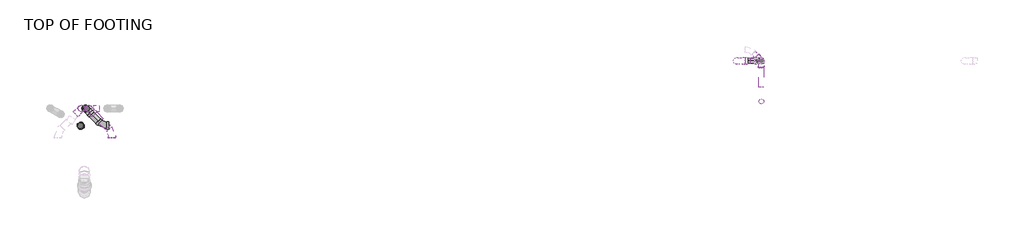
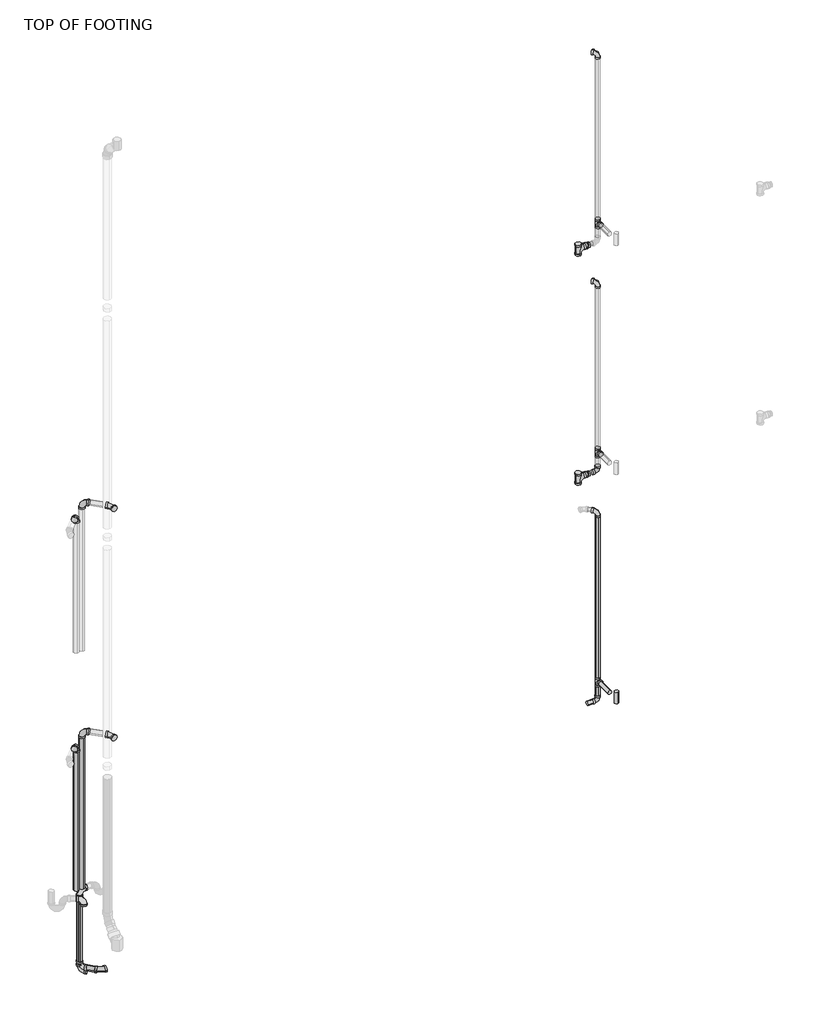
# One storey, part 5 of 8: 27 pipe segments, 25 pipe fittings.
"""IFC4 building model written with IfcOpenShell, lengths in millimetres."""

from ifc_helpers import new_model, si_unit, point, frame, frame_2d, origin, place, context, project, spatial, circle_curve, trimmed, segment, composite_curve, outline, extrude, transform, mapped, element, save
from ifc_brep_helpers import plane_surface, cylinder_surface, advanced_brep
from components import bend_pvc_sch_40_dwv_standard_738aab8b, bend_pvc_sch_40_dwv_standard_9377f51f, bend_pvc_sch_40_dwv_standard_e287c2f6, bend_pvc_sch_40_dwv_standard_f2f5988a, bend_pvc_sch_40_dwv_standard_a9546cf7, bend_pvc_sch_40_dwv_standard_994c9b13, bend_pvc_sch_40_dwv_standard_8819fd82, bend_pvc_sch_40_dwv_standard_1eaeee76, bend_pvc_sch_40_dwv_standard_49f8c181, reducer_pvc_sch_40_dwv_standard_f288b410, standard_73d07651, tee_sanitary_pvc_sch_40_dwv_standard_ad422280, tee_sanitary_pvc_sch_40_dwv_standard_7b7ecc20

model = new_model("IFC4")

# Units and contexts
model_context = context("Model", 3, world=origin())
ifc_project = project(units=[si_unit("LENGTHUNIT", "METRE", prefix="MILLI")], contexts=[model_context])

# Site, building, storey
site = spatial("IfcSite", under=ifc_project)
building = spatial("IfcBuilding", under=site)
storey = spatial("IfcBuildingStorey", under=building, Name="TOP OF FOOTING", Elevation=-762.0)

# Pipe fittings
placement = place(None, origin())
bend_pvc_sch_40_dwv_standard_shape = bend_pvc_sch_40_dwv_standard_738aab8b(model_context)
element("IfcPipeFitting", 1, ObjectType="Bend - PVC - Sch 40 - DWV : Standard", at=placement, inside=storey, context=model_context, shape_type="MappedRepresentation", body=[
    mapped(bend_pvc_sch_40_dwv_standard_shape, transform((8467.5209875, 8911.509417, 337.3617935), x_axis=(0.0, 0.0, -1.0), y_axis=(-1.0, 0.0, 0.0), z_axis=(0.0, 1.0, 0.0))),
])
element("IfcPipeFitting", 2, ObjectType="Bend - PVC - Sch 40 - DWV : Standard", at=placement, inside=storey, context=model_context, shape_type="MappedRepresentation", body=[
    mapped(bend_pvc_sch_40_dwv_standard_shape, transform((8467.5209875, 8911.4608349, 3185.0113334), x_axis=(1.0, 0.0, 0.0), y_axis=(0.0, 0.0, 1.0), z_axis=(0.0, -1.0, 0.0))),
])
bend_pvc_sch_40_dwv_standard_2_shape = bend_pvc_sch_40_dwv_standard_9377f51f(model_context)
element("IfcPipeFitting", 3, ObjectType="Bend - PVC - Sch 40 - DWV : Standard", at=placement, inside=storey, context=model_context, shape_type="MappedRepresentation", body=[
    mapped(bend_pvc_sch_40_dwv_standard_2_shape, transform((8467.5337024, 8911.5115557, 2682.6265087), x_axis=(0.0, 0.0, 1.0), y_axis=(-0.7070876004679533, 0.7071259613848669, 0.0), z_axis=(-0.7071259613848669, -0.7070876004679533, 0.0))),
])
element("IfcPipeFitting", 4, ObjectType="Bend - PVC - Sch 40 - DWV : Standard", at=placement, inside=storey, context=model_context, shape_type="MappedRepresentation", body=[
    mapped(bend_pvc_sch_40_dwv_standard_2_shape, transform((8467.5337024, 8911.5115557, 5527.4265087), x_axis=(0.0, 0.0, 1.0), y_axis=(-0.7070876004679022, 0.7071259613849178, 0.0), z_axis=(-0.7071259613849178, -0.7070876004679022, 0.0))),
])
element("IfcPipeFitting", 5, ObjectType="Bend - PVC - Sch 40 - DWV : Standard", at=placement, inside=storey, context=model_context, shape_type="MappedRepresentation", body=[
    mapped(bend_pvc_sch_40_dwv_standard_2_shape, transform((8467.5302501, 8911.5108591, 8371.9619664), x_axis=(0.0, 0.0, 1.0), y_axis=(-0.7070876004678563, 0.7071259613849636, 0.0), z_axis=(-0.7071259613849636, -0.7070876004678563, 0.0))),
])
bend_pvc_sch_40_dwv_standard_3_shape = bend_pvc_sch_40_dwv_standard_e287c2f6(model_context)
element("IfcPipeFitting", 6, ObjectType="Bend - PVC - Sch 40 - DWV : Standard", at=placement, inside=storey, context=model_context, shape_type="MappedRepresentation", body=[
    mapped(bend_pvc_sch_40_dwv_standard_3_shape, transform((2122.8597258, 8465.2710421, 477.0617935), x_axis=(-0.9999457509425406, 0.0, -0.010416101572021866), y_axis=(0.010416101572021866, 0.0, -0.9999457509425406), z_axis=(0.0, -1.0, 0.0))),
])
element("IfcPipeFitting", 7, ObjectType="Bend - PVC - Sch 40 - DWV : Standard", at=placement, inside=storey, context=model_context, shape_type="MappedRepresentation", body=[
    mapped(bend_pvc_sch_40_dwv_standard_3_shape, transform((2122.8597258, 8465.2710421, 477.0617935), x_axis=(-0.9999457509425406, 0.0, -0.010416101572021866), y_axis=(0.010416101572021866, 0.0, -0.9999457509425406), z_axis=(0.0, -1.0, 0.0))),
])
bend_pvc_sch_40_dwv_standard_4_shape = bend_pvc_sch_40_dwv_standard_f2f5988a(model_context)
element("IfcPipeFitting", 8, ObjectType="Bend - PVC - Sch 40 - DWV : Standard", at=placement, inside=storey, context=model_context, shape_type="MappedRepresentation", body=[
    mapped(bend_pvc_sch_40_dwv_standard_4_shape, transform((2372.3084875, 8244.3974343, 5283.195709), x_axis=(0.0, 0.9999999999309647, -1.1750347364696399e-05), y_axis=(-0.9999999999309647, 1.3807066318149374e-10, 1.175034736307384e-05), z_axis=(1.1750347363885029e-05, 1.175034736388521e-05, 0.9999999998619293))),
])
element("IfcPipeFitting", 9, ObjectType="Bend - PVC - Sch 40 - DWV : Standard", at=placement, inside=storey, context=model_context, shape_type="MappedRepresentation", body=[
    mapped(bend_pvc_sch_40_dwv_standard_4_shape, transform((2372.3084875, 8244.3974343, 2438.395709), x_axis=(0.0, 0.9999999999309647, -1.1750347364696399e-05), y_axis=(-0.9999999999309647, 1.3807066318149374e-10, 1.175034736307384e-05), z_axis=(1.1750347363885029e-05, 1.175034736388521e-05, 0.9999999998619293))),
])
bend_pvc_sch_40_dwv_standard_5_shape = bend_pvc_sch_40_dwv_standard_a9546cf7(model_context)
element("IfcPipeFitting", 10, ObjectType="Bend - PVC - Sch 40 - DWV : Standard", at=placement, inside=storey, context=model_context, shape_type="MappedRepresentation", body=[
    mapped(bend_pvc_sch_40_dwv_standard_5_shape, transform((2123.0879558, 8465.3555145, -484.35067), x_axis=(-8.47396251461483e-06, 4.618834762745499e-06, -0.9999999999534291), y_axis=(-0.7070876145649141, 0.7071259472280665, 9.257931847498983e-06), z_axis=(0.7071259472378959, 0.7070876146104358, -2.726237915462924e-06))),
])
element("IfcPipeFitting", 11, ObjectType="Bend - PVC - Sch 40 - DWV : Standard", at=placement, inside=storey, context=model_context, shape_type="MappedRepresentation", body=[
    mapped(bend_pvc_sch_40_dwv_standard_5_shape, transform((2122.8631892, 8465.2747973, -522.7638368), x_axis=(-8.47396251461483e-06, 4.618834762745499e-06, -0.9999999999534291), y_axis=(-0.7070876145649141, 0.7071259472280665, 9.257931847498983e-06), z_axis=(0.7071259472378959, 0.7070876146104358, -2.726237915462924e-06))),
])
bend_pvc_sch_40_dwv_standard_6_shape = bend_pvc_sch_40_dwv_standard_994c9b13(model_context)
element("IfcPipeFitting", 12, ObjectType="Bend - PVC - Sch 40 - DWV : Standard", at=placement, inside=storey, context=model_context, shape_type="MappedRepresentation", body=[
    mapped(bend_pvc_sch_40_dwv_standard_6_shape, transform((2079.7777611, 8301.1846727, 477.8709348), x_axis=(0.8674784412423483, -0.497474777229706, 0.0), y_axis=(0.0, 0.0, 1.0), z_axis=(-0.497474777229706, -0.8674784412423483, 0.0))),
])
bend_pvc_sch_40_dwv_standard_7_shape = bend_pvc_sch_40_dwv_standard_8819fd82(model_context)
element("IfcPipeFitting", 13, ObjectType="Bend - PVC - Sch 40 - DWV : Standard", at=placement, inside=storey, context=model_context, shape_type="MappedRepresentation", body=[
    mapped(bend_pvc_sch_40_dwv_standard_7_shape, transform((2282.4661288, 8305.973803, -486.0115021), x_axis=(0.7071130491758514, -0.7070620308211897, -0.007377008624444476), y_axis=(0.7070235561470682, 0.7071515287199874, -0.0073760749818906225), z_axis=(0.010432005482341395, 0.0, 0.9999455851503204))),
])
bend_pvc_sch_40_dwv_standard_8_shape = bend_pvc_sch_40_dwv_standard_1eaeee76(model_context)
element("IfcPipeFitting", 14, ObjectType="Bend - PVC - Sch 40 - DWV : Standard", at=placement, inside=storey, context=model_context, shape_type="MappedRepresentation", body=[
    mapped(bend_pvc_sch_40_dwv_standard_8_shape, transform((2151.4348028, 8465.2711191, 5283.195709), x_axis=(0.0, 0.0, 1.0), y_axis=(0.7071067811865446, -0.7071067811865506, 0.0), z_axis=(0.7071067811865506, 0.7071067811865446, 0.0))),
])
element("IfcPipeFitting", 15, ObjectType="Bend - PVC - Sch 40 - DWV : Standard", at=placement, inside=storey, context=model_context, shape_type="MappedRepresentation", body=[
    mapped(bend_pvc_sch_40_dwv_standard_8_shape, transform((2151.4348028, 8465.2711191, 2438.395709), x_axis=(0.0, 0.0, 1.0), y_axis=(0.7071067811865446, -0.7071067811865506, 0.0), z_axis=(0.7071067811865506, 0.7071067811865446, 0.0))),
])
bend_pvc_sch_40_dwv_standard_9_shape = bend_pvc_sch_40_dwv_standard_49f8c181(model_context)
element("IfcPipeFitting", 16, ObjectType="Bend - PVC - Sch 40 - DWV : Standard", at=placement, inside=storey, context=model_context, shape_type="MappedRepresentation", body=[
    mapped(bend_pvc_sch_40_dwv_standard_9_shape, transform((2085.2449931, 8465.2082981, 5130.7947608), x_axis=(0.0, 0.0, 1.0), y_axis=(0.7071067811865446, 0.7071067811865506, 0.0), z_axis=(-0.7071067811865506, 0.7071067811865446, 0.0))),
])
element("IfcPipeFitting", 17, ObjectType="Bend - PVC - Sch 40 - DWV : Standard", at=placement, inside=storey, context=model_context, shape_type="MappedRepresentation", body=[
    mapped(bend_pvc_sch_40_dwv_standard_9_shape, transform((2085.2449931, 8465.2082981, 2285.9947608), x_axis=(0.0, 0.0, 1.0), y_axis=(0.7071067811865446, 0.7071067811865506, 0.0), z_axis=(-0.7071067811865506, 0.7071067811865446, 0.0))),
])
reducer_pvc_sch_40_dwv_standard_shape = reducer_pvc_sch_40_dwv_standard_f288b410(model_context)
element("IfcPipeFitting", 18, ObjectType="Reducer - PVC - Sch 40 - DWV : Standard", at=placement, inside=storey, context=model_context, shape_type="MappedRepresentation", body=[
    mapped(reducer_pvc_sch_40_dwv_standard_shape, transform((8314.9175243, 8911.4608349, 3185.0113334), x_axis=(1.0, 0.0, 0.0), y_axis=(0.0, 1.0, 0.0), z_axis=(0.0, 0.0, 1.0))),
])
element("IfcPipeFitting", 19, ObjectType="Reducer - PVC - Sch 40 - DWV : Standard", at=placement, inside=storey, context=model_context, shape_type="MappedRepresentation", body=[
    mapped(reducer_pvc_sch_40_dwv_standard_shape, transform((8314.9175243, 8911.4608349, 6026.9617935), x_axis=(1.0, 0.0, 0.0), y_axis=(0.0, 1.0, 0.0), z_axis=(0.0, 0.0, 1.0))),
])
standard_shape = standard_73d07651(model_context)
element("IfcPipeFitting", 20, ObjectType="GES P TRAP PVC Sch 40 - DWV : Standard", at=placement, inside=storey, context=model_context, shape_type="MappedRepresentation", body=[
    mapped(standard_shape, transform((2442.6720106, 8465.2710421, 477.8721683), x_axis=(0.0, 0.0, -1.0), y_axis=(-1.0, 0.0, 0.0), z_axis=(0.0, 1.0, 0.0))),
])
tee_sanitary_pvc_sch_40_dwv_standard_shape = tee_sanitary_pvc_sch_40_dwv_standard_ad422280(model_context)
element("IfcPipeFitting", 21, ObjectType="Tee Sanitary - PVC - Sch 40 - DWV : Standard", at=placement, inside=storey, context=model_context, shape_type="MappedRepresentation", body=[
    mapped(tee_sanitary_pvc_sch_40_dwv_standard_shape, transform((8467.5209875, 8911.509417, 6267.6170389), x_axis=(0.0, 0.0, 1.0), y_axis=(0.0, 1.0, 0.0), z_axis=(-1.0, 0.0, 0.0))),
])
element("IfcPipeFitting", 22, ObjectType="Tee Sanitary - PVC - Sch 40 - DWV : Standard", at=placement, inside=storey, context=model_context, shape_type="MappedRepresentation", body=[
    mapped(tee_sanitary_pvc_sch_40_dwv_standard_shape, transform((8467.5209875, 8911.509417, 3422.8170389), x_axis=(0.0, 0.0, 1.0), y_axis=(0.0, 1.0, 0.0), z_axis=(-1.0, 0.0, 0.0))),
])
element("IfcPipeFitting", 23, ObjectType="Tee Sanitary - PVC - Sch 40 - DWV : Standard", at=placement, inside=storey, context=model_context, shape_type="MappedRepresentation", body=[
    mapped(tee_sanitary_pvc_sch_40_dwv_standard_shape, transform((8467.5209875, 8911.509417, 578.0170389), x_axis=(0.0, 0.0, 1.0), y_axis=(0.0, 1.0, 0.0), z_axis=(-1.0, 0.0, 0.0))),
])
tee_sanitary_pvc_sch_40_dwv_standard_2_shape = tee_sanitary_pvc_sch_40_dwv_standard_7b7ecc20(model_context)
element("IfcPipeFitting", 24, ObjectType="Tee Sanitary - PVC - Sch 40 - DWV : Standard", at=placement, inside=storey, context=model_context, shape_type="MappedRepresentation", body=[
    mapped(tee_sanitary_pvc_sch_40_dwv_standard_2_shape, transform((8237.1173243, 8911.4608349, 3185.0113334), x_axis=(0.0, 0.0, 1.0), y_axis=(-1.0, 0.0, 0.0), z_axis=(0.0, -1.0, 0.0))),
])
element("IfcPipeFitting", 25, ObjectType="Tee Sanitary - PVC - Sch 40 - DWV : Standard", at=placement, inside=storey, context=model_context, shape_type="MappedRepresentation", body=[
    mapped(tee_sanitary_pvc_sch_40_dwv_standard_2_shape, transform((8237.1173243, 8911.4608349, 6026.9617935), x_axis=(0.0, 0.0, 1.0), y_axis=(-1.0, 0.0, 0.0), z_axis=(0.0, -1.0, 0.0))),
])

# Pipe segments
element("IfcPipeSegment", 26, ObjectType="PVC - SAN/STORM", at=placement, inside=storey, context=model_context, shape_type="SweptSolid", body=[
    extrude(outline(composite_curve([segment(trimmed(circle_curve(frame_2d((6268.2617935, 8467.5209875)), 24.13), [point((6268.2617935, 8491.6509875))], [point((6292.3917935, 8467.5209875))], False, "CARTESIAN"), True, "CONTINUOUS"), segment(trimmed(circle_curve(frame_2d((6268.2617935, 8467.5209875)), 24.13), [point((6292.3917935, 8467.5209875))], [point((6268.2617935, 8443.3909875))], False, "CARTESIAN"), True, "CONTINUOUS"), segment(trimmed(circle_curve(frame_2d((6268.2617935, 8467.5209875)), 24.13), [point((6268.2617935, 8443.3909875))], [point((6244.1317935, 8467.5209875))], False, "CARTESIAN"), True, "CONTINUOUS"), segment(trimmed(circle_curve(frame_2d((6268.2617935, 8467.5209875)), 24.13), [point((6244.1317935, 8467.5209875))], [point((6268.2617935, 8491.6509875))], False, "CARTESIAN"), True, "CONTINUOUS")], self_intersect=False)), frame((0.0, 8665.4385881, 0.0), z_axis=(0.0, 1.0, 0.0), x_axis=(0.0, 0.0, 1.0)), (0.0, 0.0, 1.0), 184.174387),
])
element("IfcPipeSegment", 27, ObjectType="PVC - SAN/STORM", at=placement, inside=storey, context=model_context, shape_type="SweptSolid", body=[
    extrude(outline(composite_curve([segment(trimmed(circle_curve(frame_2d((8467.5209875, 8530.5137881)), 24.13), [point((8443.3909875, 8530.5137881))], [point((8467.5209875, 8554.6437881))], False, "CARTESIAN"), True, "CONTINUOUS"), segment(trimmed(circle_curve(frame_2d((8467.5209875, 8530.5137881)), 24.13), [point((8467.5209875, 8554.6437881))], [point((8491.6509875, 8530.5137881))], False, "CARTESIAN"), True, "CONTINUOUS"), segment(trimmed(circle_curve(frame_2d((8467.5209875, 8530.5137881)), 24.13), [point((8491.6509875, 8530.5137881))], [point((8467.5209875, 8506.3837881))], False, "CARTESIAN"), True, "CONTINUOUS"), segment(trimmed(circle_curve(frame_2d((8467.5209875, 8530.5137881)), 24.13), [point((8467.5209875, 8506.3837881))], [point((8443.3909875, 8530.5137881))], False, "CARTESIAN"), True, "CONTINUOUS")], self_intersect=False)), frame((0.0, 0.0, 6223.7990935), z_axis=(0.0, 0.0, 1.0), x_axis=(1.0, 0.0, 0.0)), (0.0, 0.0, 1.0), 141.6019923),
])
element("IfcPipeSegment", 28, ObjectType="PVC - SAN/STORM", at=placement, inside=storey, context=model_context, shape_type="SweptSolid", body=[
    extrude(outline(composite_curve([segment(trimmed(circle_curve(frame_2d((0.0, 24.1300001)), 24.13), [point((-24.13, 24.1300001))], [point((0.0, 48.2600001))], False, "CARTESIAN"), True, "CONTINUOUS"), segment(trimmed(circle_curve(frame_2d((0.0, 24.1300001)), 24.13), [point((0.0, 48.2600001))], [point((24.13, 24.1300001))], False, "CARTESIAN"), True, "CONTINUOUS"), segment(trimmed(circle_curve(frame_2d((0.0, 24.1300001)), 24.13), [point((24.13, 24.1300001))], [point((0.0, 0.0))], False, "CARTESIAN"), True, "CONTINUOUS"), segment(trimmed(circle_curve(frame_2d((0.0, 24.1300001)), 24.13), [point((0.0, 0.0))], [point((-24.13, 24.1300001))], False, "CARTESIAN"), True, "CONTINUOUS")], self_intersect=False)), frame((8467.5209875, 8887.3308369, 6088.8716254), z_axis=(0.0, 0.00041574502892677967, 0.9999999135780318), x_axis=(1.0, 0.0, 0.0)), (0.0, 0.0, 1.0), 116.8556555),
])
element("IfcPipeSegment", 29, ObjectType="PVC - SAN/STORM", at=placement, inside=storey, context=model_context, shape_type="SweptSolid", body=[
    extrude(outline(composite_curve([segment(trimmed(circle_curve(frame_2d((0.0, 24.13)), 24.13), [point((-24.13, 24.13))], [point((0.0, 48.26))], False, "CARTESIAN"), True, "CONTINUOUS"), segment(trimmed(circle_curve(frame_2d((0.0, 24.13)), 24.13), [point((0.0, 48.26))], [point((24.13, 24.13))], False, "CARTESIAN"), True, "CONTINUOUS"), segment(trimmed(circle_curve(frame_2d((0.0, 24.13)), 24.13), [point((24.13, 24.13))], [point((0.0, 0.0))], False, "CARTESIAN"), True, "CONTINUOUS"), segment(trimmed(circle_curve(frame_2d((0.0, 24.13)), 24.13), [point((0.0, 0.0))], [point((-24.13, 24.13))], False, "CARTESIAN"), True, "CONTINUOUS")], self_intersect=False)), frame((8467.5209875, 8887.379417, 6313.8112177), z_axis=(4.640019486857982e-06, 7.223967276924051e-07, 0.9999999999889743), x_axis=(0.9999999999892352, -3.350208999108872e-12, -4.640019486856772e-06)), (0.0, 0.0, 1.0), 1996.2509661),
])
element("IfcPipeSegment", 30, ObjectType="PVC - SAN/STORM", at=placement, inside=storey, context=model_context, shape_type="SweptSolid", body=[
    extrude(outline(composite_curve([segment(trimmed(circle_curve(frame_2d((3423.4617935, 8467.5209875)), 24.13), [point((3423.4617935, 8491.6509875))], [point((3447.5917935, 8467.5209875))], False, "CARTESIAN"), True, "CONTINUOUS"), segment(trimmed(circle_curve(frame_2d((3423.4617935, 8467.5209875)), 24.13), [point((3447.5917935, 8467.5209875))], [point((3423.4617935, 8443.3909875))], False, "CARTESIAN"), True, "CONTINUOUS"), segment(trimmed(circle_curve(frame_2d((3423.4617935, 8467.5209875)), 24.13), [point((3423.4617935, 8443.3909875))], [point((3399.3317935, 8467.5209875))], False, "CARTESIAN"), True, "CONTINUOUS"), segment(trimmed(circle_curve(frame_2d((3423.4617935, 8467.5209875)), 24.13), [point((3399.3317935, 8467.5209875))], [point((3423.4617935, 8491.6509875))], False, "CARTESIAN"), True, "CONTINUOUS")], self_intersect=False)), frame((0.0, 8665.4385881, 0.0), z_axis=(0.0, 1.0, 0.0), x_axis=(0.0, 0.0, 1.0)), (0.0, 0.0, 1.0), 184.174387),
])
element("IfcPipeSegment", 31, ObjectType="PVC - SAN/STORM", at=placement, inside=storey, context=model_context, shape_type="SweptSolid", body=[
    extrude(outline(composite_curve([segment(trimmed(circle_curve(frame_2d((8467.5209875, 8530.5137881)), 24.13), [point((8443.3909875, 8530.5137881))], [point((8467.5209875, 8554.6437881))], False, "CARTESIAN"), True, "CONTINUOUS"), segment(trimmed(circle_curve(frame_2d((8467.5209875, 8530.5137881)), 24.13), [point((8467.5209875, 8554.6437881))], [point((8491.6509875, 8530.5137881))], False, "CARTESIAN"), True, "CONTINUOUS"), segment(trimmed(circle_curve(frame_2d((8467.5209875, 8530.5137881)), 24.13), [point((8491.6509875, 8530.5137881))], [point((8467.5209875, 8506.3837881))], False, "CARTESIAN"), True, "CONTINUOUS"), segment(trimmed(circle_curve(frame_2d((8467.5209875, 8530.5137881)), 24.13), [point((8467.5209875, 8506.3837881))], [point((8443.3909875, 8530.5137881))], False, "CARTESIAN"), True, "CONTINUOUS")], self_intersect=False)), frame((0.0, 0.0, 3378.9990935), z_axis=(0.0, 0.0, 1.0), x_axis=(1.0, 0.0, 0.0)), (0.0, 0.0, 1.0), 141.6019923),
])
element("IfcPipeSegment", 32, ObjectType="PVC - SAN/STORM", at=placement, inside=storey, context=model_context, shape_type="SweptSolid", body=[
    extrude(outline(composite_curve([segment(trimmed(circle_curve(frame_2d((0.0, 24.1300001)), 24.13), [point((-24.13, 24.1300001))], [point((0.0, 48.2600001))], False, "CARTESIAN"), True, "CONTINUOUS"), segment(trimmed(circle_curve(frame_2d((0.0, 24.1300001)), 24.13), [point((0.0, 48.2600001))], [point((24.13, 24.1300001))], False, "CARTESIAN"), True, "CONTINUOUS"), segment(trimmed(circle_curve(frame_2d((0.0, 24.1300001)), 24.13), [point((24.13, 24.1300001))], [point((0.0, 0.0))], False, "CARTESIAN"), True, "CONTINUOUS"), segment(trimmed(circle_curve(frame_2d((0.0, 24.1300001)), 24.13), [point((0.0, 0.0))], [point((-24.13, 24.1300001))], False, "CARTESIAN"), True, "CONTINUOUS")], self_intersect=False)), frame((8467.5209875, 8887.330837, 3246.9214161), z_axis=(0.0, 0.0004261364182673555, 0.9999999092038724), x_axis=(1.0, 0.0, 0.0)), (0.0, 0.0, 1.0), 114.0061159),
])
element("IfcPipeSegment", 33, ObjectType="PVC - SAN/STORM", at=placement, inside=storey, context=model_context, shape_type="SweptSolid", body=[
    extrude(outline(composite_curve([segment(trimmed(circle_curve(frame_2d((0.0, 24.13)), 24.13), [point((-24.13, 24.13))], [point((0.0, 48.26))], False, "CARTESIAN"), True, "CONTINUOUS"), segment(trimmed(circle_curve(frame_2d((0.0, 24.13)), 24.13), [point((0.0, 48.26))], [point((24.13, 24.13))], False, "CARTESIAN"), True, "CONTINUOUS"), segment(trimmed(circle_curve(frame_2d((0.0, 24.13)), 24.13), [point((24.13, 24.13))], [point((0.0, 0.0))], False, "CARTESIAN"), True, "CONTINUOUS"), segment(trimmed(circle_curve(frame_2d((0.0, 24.13)), 24.13), [point((0.0, 0.0))], [point((-24.13, 24.13))], False, "CARTESIAN"), True, "CONTINUOUS")], self_intersect=False)), frame((8467.5209875, 8887.379417, 3469.0112262), z_axis=(6.368583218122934e-06, 1.0712312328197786e-06, 0.9999999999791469), x_axis=(0.9999999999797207, -6.8212102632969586e-12, -6.368583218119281e-06)), (0.0, 0.0, 1.0), 1996.5155084),
])
element("IfcPipeSegment", 34, ObjectType="PVC - SAN/STORM", at=placement, inside=storey, context=model_context, shape_type="SweptSolid", body=[
    extrude(outline(composite_curve([segment(trimmed(circle_curve(frame_2d((578.6617935, 8467.5209875)), 24.13), [point((578.6617935, 8491.6509875))], [point((602.7917935, 8467.5209875))], False, "CARTESIAN"), True, "CONTINUOUS"), segment(trimmed(circle_curve(frame_2d((578.6617935, 8467.5209875)), 24.13), [point((602.7917935, 8467.5209875))], [point((578.6617935, 8443.3909875))], False, "CARTESIAN"), True, "CONTINUOUS"), segment(trimmed(circle_curve(frame_2d((578.6617935, 8467.5209875)), 24.13), [point((578.6617935, 8443.3909875))], [point((554.5317935, 8467.5209875))], False, "CARTESIAN"), True, "CONTINUOUS"), segment(trimmed(circle_curve(frame_2d((578.6617935, 8467.5209875)), 24.13), [point((554.5317935, 8467.5209875))], [point((578.6617935, 8491.6509875))], False, "CARTESIAN"), True, "CONTINUOUS")], self_intersect=False)), frame((0.0, 8665.4385881, 0.0), z_axis=(0.0, 1.0, 0.0), x_axis=(0.0, 0.0, 1.0)), (0.0, 0.0, 1.0), 184.174387),
])
element("IfcPipeSegment", 35, ObjectType="PVC - SAN/STORM", at=placement, inside=storey, context=model_context, shape_type="SweptSolid", body=[
    extrude(outline(composite_curve([segment(trimmed(circle_curve(frame_2d((8467.5209875, 8530.5137881)), 24.13), [point((8443.3909875, 8530.5137881))], [point((8467.5209875, 8554.6437881))], False, "CARTESIAN"), True, "CONTINUOUS"), segment(trimmed(circle_curve(frame_2d((8467.5209875, 8530.5137881)), 24.13), [point((8467.5209875, 8554.6437881))], [point((8491.6509875, 8530.5137881))], False, "CARTESIAN"), True, "CONTINUOUS"), segment(trimmed(circle_curve(frame_2d((8467.5209875, 8530.5137881)), 24.13), [point((8491.6509875, 8530.5137881))], [point((8467.5209875, 8506.3837881))], False, "CARTESIAN"), True, "CONTINUOUS"), segment(trimmed(circle_curve(frame_2d((8467.5209875, 8530.5137881)), 24.13), [point((8467.5209875, 8506.3837881))], [point((8443.3909875, 8530.5137881))], False, "CARTESIAN"), True, "CONTINUOUS")], self_intersect=False)), frame((0.0, 0.0, 534.1990935), z_axis=(0.0, 0.0, 1.0), x_axis=(1.0, 0.0, 0.0)), (0.0, 0.0, 1.0), 141.6019923),
])
element("IfcPipeSegment", 36, ObjectType="PVC - SAN/STORM", at=placement, inside=storey, context=model_context, shape_type="SweptSolid", body=[
    extrude(outline(composite_curve([segment(trimmed(circle_curve(frame_2d((8467.5209875, 8911.509417)), 24.13), [point((8491.6509875, 8911.509417))], [point((8467.5209875, 8887.379417))], False, "CARTESIAN"), True, "CONTINUOUS"), segment(trimmed(circle_curve(frame_2d((8467.5209875, 8911.509417)), 24.13), [point((8467.5209875, 8887.379417))], [point((8443.3909875, 8911.509417))], False, "CARTESIAN"), True, "CONTINUOUS"), segment(trimmed(circle_curve(frame_2d((8467.5209875, 8911.509417)), 24.13), [point((8443.3909875, 8911.509417))], [point((8467.5209875, 8935.639417))], False, "CARTESIAN"), True, "CONTINUOUS"), segment(trimmed(circle_curve(frame_2d((8467.5209875, 8911.509417)), 24.13), [point((8467.5209875, 8935.639417))], [point((8491.6509875, 8911.509417))], False, "CARTESIAN"), True, "CONTINUOUS")], self_intersect=False)), frame((0.0, 0.0, 399.2615935), z_axis=(0.0, 0.0, 1.0), x_axis=(1.0, 0.0, 0.0)), (0.0, 0.0, 1.0), 116.8556454),
])
element("IfcPipeSegment", 37, ObjectType="PVC - SAN/STORM", at=placement, inside=storey, context=model_context, shape_type="SweptSolid", body=[
    extrude(outline(composite_curve([segment(trimmed(circle_curve(frame_2d((0.0, 24.13)), 24.13), [point((-24.13, 24.13))], [point((0.0, 48.26))], False, "CARTESIAN"), True, "CONTINUOUS"), segment(trimmed(circle_curve(frame_2d((0.0, 24.13)), 24.13), [point((0.0, 48.26))], [point((24.13, 24.13))], False, "CARTESIAN"), True, "CONTINUOUS"), segment(trimmed(circle_curve(frame_2d((0.0, 24.13)), 24.13), [point((24.13, 24.13))], [point((0.0, 0.0))], False, "CARTESIAN"), True, "CONTINUOUS"), segment(trimmed(circle_curve(frame_2d((0.0, 24.13)), 24.13), [point((0.0, 0.0))], [point((-24.13, 24.13))], False, "CARTESIAN"), True, "CONTINUOUS")], self_intersect=False)), frame((8467.5209875, 8887.379417, 624.2112262), z_axis=(6.368583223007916e-06, 1.0712312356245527e-06, 0.9999999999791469), x_axis=(0.9999999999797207, -6.8212102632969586e-12, -6.368583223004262e-06)), (0.0, 0.0, 1.0), 1996.5155084),
])
element("IfcPipeSegment", 38, ObjectType="PVC - SAN/STORM", at=placement, inside=storey, context=model_context, shape_type="SweptSolid", body=[
    extrude(outline(composite_curve([segment(trimmed(circle_curve(frame_2d((0.0, 24.13)), 24.13), [point((24.1293456, 24.3077101))], [point((0.1777101, 0.0006544))], False, "CARTESIAN"), True, "CONTINUOUS"), segment(trimmed(circle_curve(frame_2d((0.0, 24.13)), 24.13), [point((0.1777101, 0.0006544))], [point((-24.1293456, 23.9522899))], False, "CARTESIAN"), True, "CONTINUOUS"), segment(trimmed(circle_curve(frame_2d((0.0, 24.13)), 24.13), [point((-24.1293456, 23.9522899))], [point((-0.1777101, 48.2593456))], False, "CARTESIAN"), True, "CONTINUOUS"), segment(trimmed(circle_curve(frame_2d((0.0, 24.13)), 24.13), [point((-0.1777101, 48.2593456))], [point((24.1293456, 24.3077101))], False, "CARTESIAN"), True, "CONTINUOUS")], self_intersect=False)), frame((8423.7663086, 8955.0299972, 2707.2111102), z_axis=(-0.7070684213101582, 0.7071067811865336, 0.0073652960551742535), x_axis=(0.7071451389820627, 0.7070300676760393, 0.007364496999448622)), (0.0, 0.0, 1.0), 42.2395422),
])
element("IfcPipeSegment", 39, ObjectType="PVC - SAN/STORM", at=placement, inside=storey, context=model_context, shape_type="SweptSolid", body=[
    extrude(outline(composite_curve([segment(trimmed(circle_curve(frame_2d((2123.0886151, 8465.3551551)), 30.1625), [point((2153.2511151, 8465.3551551))], [point((2123.0886151, 8435.1926551))], False, "CARTESIAN"), True, "CONTINUOUS"), segment(trimmed(circle_curve(frame_2d((2123.0886151, 8465.3551551)), 30.1625), [point((2123.0886151, 8435.1926551))], [point((2092.9261151, 8465.3551551))], False, "CARTESIAN"), True, "CONTINUOUS"), segment(trimmed(circle_curve(frame_2d((2123.0886151, 8465.3551551)), 30.1625), [point((2092.9261151, 8465.3551551))], [point((2123.0886151, 8495.5176551))], False, "CARTESIAN"), True, "CONTINUOUS"), segment(trimmed(circle_curve(frame_2d((2123.0886151, 8465.3551551)), 30.1625), [point((2123.0886151, 8495.5176551))], [point((2153.2511151, 8465.3551551))], False, "CARTESIAN"), True, "CONTINUOUS")], self_intersect=False)), frame((0.0, 0.0, -406.55047), z_axis=(0.0, 0.0, 1.0), x_axis=(1.0, 0.0, 0.0)), (0.0, 0.0, 1.0), 805.8120635),
])
element("IfcPipeSegment", 40, ObjectType="PVC - SAN/STORM", at=placement, inside=storey, context=model_context, shape_type="SweptSolid", body=[
    extrude(outline(composite_curve([segment(trimmed(circle_curve(frame_2d((0.0, -30.1624999)), 30.1625), [point((-30.161682, -30.3846376))], [point((-0.2221377, -0.000818))], False, "CARTESIAN"), True, "CONTINUOUS"), segment(trimmed(circle_curve(frame_2d((0.0, -30.1624999)), 30.1625), [point((-0.2221377, -0.000818))], [point((30.161682, -29.9403622))], False, "CARTESIAN"), True, "CONTINUOUS"), segment(trimmed(circle_curve(frame_2d((0.0, -30.1624999)), 30.1625), [point((30.161682, -29.9403622))], [point((0.2221377, -60.3241819))], False, "CARTESIAN"), True, "CONTINUOUS"), segment(trimmed(circle_curve(frame_2d((0.0, -30.1624999)), 30.1625), [point((0.2221377, -60.3241819))], [point((-30.161682, -30.3846376))], False, "CARTESIAN"), True, "CONTINUOUS")], self_intersect=False)), frame((2242.054618, 8346.6965567, -515.7507699), z_axis=(-0.7070684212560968, 0.7071067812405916, 0.0073652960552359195), x_axis=(0.7071451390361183, 0.7070300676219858, 0.007364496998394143)), (0.0, 0.0, 1.0), 90.4531947),
])
element("IfcPipeSegment", 41, ObjectType="PVC - SAN/STORM", at=placement, inside=storey, context=model_context, shape_type="SweptSolid", body=[
    extrude(outline(composite_curve([segment(trimmed(circle_curve(frame_2d((8465.2710421, 477.8721683)), 30.1625), [point((8495.4335421, 477.8721683))], [point((8465.2710421, 447.7096683))], False, "CARTESIAN"), True, "CONTINUOUS"), segment(trimmed(circle_curve(frame_2d((8465.2710421, 477.8721683)), 30.1625), [point((8465.2710421, 447.7096683))], [point((8435.1085421, 477.8721683))], False, "CARTESIAN"), True, "CONTINUOUS"), segment(trimmed(circle_curve(frame_2d((8465.2710421, 477.8721683)), 30.1625), [point((8435.1085421, 477.8721683))], [point((8465.2710421, 508.0346683))], False, "CARTESIAN"), True, "CONTINUOUS"), segment(trimmed(circle_curve(frame_2d((8465.2710421, 477.8721683)), 30.1625), [point((8465.2710421, 508.0346683))], [point((8495.4335421, 477.8721683))], False, "CARTESIAN"), True, "CONTINUOUS")], self_intersect=False)), frame((2200.6557052, 0.0, 0.0), z_axis=(1.0, 0.0, 0.0), x_axis=(0.0, 1.0, 0.0)), (0.0, 0.0, 1.0), 49.9288054),
])
element("IfcPipeSegment", 42, ObjectType="PVC - SAN/STORM", at=placement, inside=storey, context=model_context, shape_type="SweptSolid", body=[
    extrude(outline(composite_curve([segment(trimmed(circle_curve(frame_2d((2442.6720106, 8465.2710421)), 30.1625), [point((2412.5095106, 8465.2710421))], [point((2442.6720106, 8495.4335421))], False, "CARTESIAN"), True, "CONTINUOUS"), segment(trimmed(circle_curve(frame_2d((2442.6720106, 8465.2710421)), 30.1625), [point((2442.6720106, 8495.4335421))], [point((2472.8345106, 8465.2710421))], False, "CARTESIAN"), True, "CONTINUOUS"), segment(trimmed(circle_curve(frame_2d((2442.6720106, 8465.2710421)), 30.1625), [point((2472.8345106, 8465.2710421))], [point((2442.6720106, 8435.1085421))], False, "CARTESIAN"), True, "CONTINUOUS"), segment(trimmed(circle_curve(frame_2d((2442.6720106, 8465.2710421)), 30.1625), [point((2442.6720106, 8435.1085421))], [point((2412.5095106, 8465.2710421))], False, "CARTESIAN"), True, "CONTINUOUS")], self_intersect=False)), frame((0.0, 0.0, 430.2471683), z_axis=(0.0, 0.0, 1.0), x_axis=(1.0, 0.0, 0.0)), (0.0, 0.0, 1.0), 143.9539175),
])
element("IfcPipeSegment", 43, ObjectType="PVC - SAN/STORM", at=placement, inside=storey, context=model_context, shape_type="SweptSolid", body=[
    extrude(outline(composite_curve([segment(trimmed(circle_curve(frame_2d((0.0, -30.1625)), 30.1625), [point((-30.1625, -30.1625))], [point((0.0, 0.0))], False, "CARTESIAN"), True, "CONTINUOUS"), segment(trimmed(circle_curve(frame_2d((0.0, -30.1625)), 30.1625), [point((0.0, 0.0))], [point((30.1625, -30.1625))], False, "CARTESIAN"), True, "CONTINUOUS"), segment(trimmed(circle_curve(frame_2d((0.0, -30.1625)), 30.1625), [point((30.1625, -30.1625))], [point((0.0, -60.325))], False, "CARTESIAN"), True, "CONTINUOUS"), segment(trimmed(circle_curve(frame_2d((0.0, -30.1625)), 30.1625), [point((0.0, -60.325))], [point((-30.1625, -30.1625))], False, "CARTESIAN"), True, "CONTINUOUS")], self_intersect=False)), frame((2122.8638485, 8435.111938, -444.9637581), z_axis=(-4.883397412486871e-06, -4.0224539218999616e-06, 0.9999999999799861), x_axis=(-0.9999999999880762, 1.964295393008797e-11, -4.883397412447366e-06)), (0.0, 0.0, 1.0), 844.2252303),
])
element("IfcPipeSegment", 44, ObjectType="PVC - SAN/STORM", at=placement, inside=storey, context=model_context, shape_type="SweptSolid", body=[
    extrude(outline(composite_curve([segment(trimmed(circle_curve(frame_2d((0.0, 30.1625)), 30.1625), [point((-30.1625, 30.1625))], [point((0.0, 60.325))], False, "CARTESIAN"), True, "CONTINUOUS"), segment(trimmed(circle_curve(frame_2d((0.0, 30.1625)), 30.1625), [point((0.0, 60.325))], [point((30.1625, 30.1625))], False, "CARTESIAN"), True, "CONTINUOUS"), segment(trimmed(circle_curve(frame_2d((0.0, 30.1625)), 30.1625), [point((30.1625, 30.1625))], [point((0.0, 0.0))], False, "CARTESIAN"), True, "CONTINUOUS"), segment(trimmed(circle_curve(frame_2d((0.0, 30.1625)), 30.1625), [point((0.0, 0.0))], [point((-30.1625, 30.1625))], False, "CARTESIAN"), True, "CONTINUOUS")], self_intersect=False)), frame((2151.4347258, 8435.1085421, 3441.2981071), z_axis=(4.362193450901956e-08, 4.3621944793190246e-08, 0.9999999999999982), x_axis=(0.9999999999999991, 0.0, -4.362193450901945e-08)), (0.0, 0.0, 1.0), 1764.0974032),
])
element("IfcPipeSegment", 45, ObjectType="PVC - SAN/STORM", at=placement, inside=storey, context=model_context, shape_type="SweptSolid", body=[
    extrude(outline(composite_curve([segment(trimmed(circle_curve(frame_2d((0.0, -30.1625)), 30.1625), [point((-30.1625, -30.1625))], [point((0.0, 0.0))], False, "CARTESIAN"), True, "CONTINUOUS"), segment(trimmed(circle_curve(frame_2d((0.0, -30.1625)), 30.1625), [point((0.0, 0.0))], [point((30.1625, -30.1625))], False, "CARTESIAN"), True, "CONTINUOUS"), segment(trimmed(circle_curve(frame_2d((0.0, -30.1625)), 30.1625), [point((30.1625, -30.1625))], [point((0.0, -60.325))], False, "CARTESIAN"), True, "CONTINUOUS"), segment(trimmed(circle_curve(frame_2d((0.0, -30.1625)), 30.1625), [point((0.0, -60.325))], [point((-30.1625, -30.1625))], False, "CARTESIAN"), True, "CONTINUOUS")], self_intersect=False)), frame((2331.8973349, 8284.8085869, 5253.033209), z_axis=(-0.7071067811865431, 0.707106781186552, 0.0), x_axis=(0.707106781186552, 0.7071067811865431, 0.0)), (0.0, 0.0, 1.0), 177.4123605),
])
element("IfcPipeSegment", 46, ObjectType="PVC - SAN/STORM", at=placement, inside=storey, context=model_context, shape_type="SweptSolid", body=[
    extrude(outline(composite_curve([segment(trimmed(circle_curve(frame_2d((2085.1822491, 8465.2710421)), 30.1625), [point((2055.0197491, 8465.2710421))], [point((2085.1822491, 8495.4335421))], False, "CARTESIAN"), True, "CONTINUOUS"), segment(trimmed(circle_curve(frame_2d((2085.1822491, 8465.2710421)), 30.1625), [point((2085.1822491, 8495.4335421))], [point((2115.3447491, 8465.2710421))], False, "CARTESIAN"), True, "CONTINUOUS"), segment(trimmed(circle_curve(frame_2d((2085.1822491, 8465.2710421)), 30.1625), [point((2115.3447491, 8465.2710421))], [point((2085.1822491, 8435.1085421))], False, "CARTESIAN"), True, "CONTINUOUS"), segment(trimmed(circle_curve(frame_2d((2085.1822491, 8465.2710421)), 30.1625), [point((2085.1822491, 8435.1085421))], [point((2055.0197491, 8465.2710421))], False, "CARTESIAN"), True, "CONTINUOUS")], self_intersect=False)), frame((0.0, 0.0, 3441.2981058), z_axis=(0.0, 0.0, 1.0), x_axis=(1.0, 0.0, 0.0)), (0.0, 0.0, 1.0), 1611.696455),
])
element("IfcPipeSegment", 47, ObjectType="PVC - SAN/STORM", at=placement, inside=storey, context=model_context, shape_type="SweptSolid", body=[
    extrude(outline(composite_curve([segment(trimmed(circle_curve(frame_2d((0.0, -30.1625)), 30.1625), [point((-30.1625, -30.1625))], [point((0.0, 0.0))], False, "CARTESIAN"), True, "CONTINUOUS"), segment(trimmed(circle_curve(frame_2d((0.0, -30.1625)), 30.1625), [point((0.0, 0.0))], [point((30.1625, -30.1625))], False, "CARTESIAN"), True, "CONTINUOUS"), segment(trimmed(circle_curve(frame_2d((0.0, -30.1625)), 30.1625), [point((30.1625, -30.1625))], [point((0.0, -60.325))], False, "CARTESIAN"), True, "CONTINUOUS"), segment(trimmed(circle_curve(frame_2d((0.0, -30.1625)), 30.1625), [point((0.0, -60.325))], [point((-30.1625, -30.1625))], False, "CARTESIAN"), True, "CONTINUOUS")], self_intersect=False)), frame((2151.4348028, 8435.1085416, 488.944762), z_axis=(0.0, 4.1397888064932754e-08, 0.9999999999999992), x_axis=(-1.0, 0.0, 0.0)), (0.0, 0.0, 1.0), 1871.6507482),
])
element("IfcPipeSegment", 48, ObjectType="PVC - SAN/STORM", at=placement, inside=storey, context=model_context, shape_type="SweptSolid", body=[
    extrude(outline(composite_curve([segment(trimmed(circle_curve(frame_2d((0.0, -30.1625)), 30.1625), [point((-30.1625, -30.1625))], [point((0.0, 0.0))], False, "CARTESIAN"), True, "CONTINUOUS"), segment(trimmed(circle_curve(frame_2d((0.0, -30.1625)), 30.1625), [point((0.0, 0.0))], [point((30.1625, -30.1625))], False, "CARTESIAN"), True, "CONTINUOUS"), segment(trimmed(circle_curve(frame_2d((0.0, -30.1625)), 30.1625), [point((30.1625, -30.1625))], [point((0.0, -60.325))], False, "CARTESIAN"), True, "CONTINUOUS"), segment(trimmed(circle_curve(frame_2d((0.0, -30.1625)), 30.1625), [point((0.0, -60.325))], [point((-30.1625, -30.1625))], False, "CARTESIAN"), True, "CONTINUOUS")], self_intersect=False)), frame((2331.8973349, 8284.8085869, 2408.233209), z_axis=(-0.7071067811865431, 0.707106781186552, 0.0), x_axis=(0.707106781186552, 0.7071067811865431, 0.0)), (0.0, 0.0, 1.0), 177.4123605),
])
element("IfcPipeSegment", 49, ObjectType="PVC - SAN/STORM", at=placement, inside=storey, context=model_context, shape_type="AdvancedBrep", body=[
    advanced_brep(
    [(2115.4074931, 8465.2082981, 2208.194561), (2085.2449931, 8495.3707981, 2208.1945732), (2055.0824931, 8465.2082981, 2208.1945605), (2085.2449931, 8435.0457981, 2208.1945484), (2115.4075087, 8465.209005, 488.944761), (2085.2450087, 8435.046505, 488.9447484), (2055.0825087, 8465.209005, 488.9447605), (2085.2450087, 8495.371505, 488.9447732)],
    [
        (0, 1, circle_curve(frame((2085.2449931, 8465.2082981, 2208.194561), z_axis=(0.0, -4.111437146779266e-07, 0.9999999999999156), x_axis=(1.0, 0.0, 0.0)), 30.1625)),
        (1, 2, circle_curve(frame((2085.2449931, 8465.2082981, 2208.1945608), z_axis=(0.0, -4.111437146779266e-07, 0.9999999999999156), x_axis=(1.0, 0.0, 0.0)), 30.1625)),
        (2, 3, circle_curve(frame((2085.2449931, 8465.2082981, 2208.1945605), z_axis=(0.0, -4.111437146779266e-07, 0.9999999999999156), x_axis=(1.0, 0.0, 0.0)), 30.1625)),
        (3, 0, circle_curve(frame((2085.2449931, 8465.2082981, 2208.1945608), z_axis=(0.0, -4.111437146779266e-07, 0.9999999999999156), x_axis=(1.0, 0.0, 0.0)), 30.1625)),
        (4, 5, circle_curve(frame((2085.2449931, 8465.209005, 488.944761), z_axis=(0.0, 4.111437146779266e-07, -0.9999999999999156), x_axis=(1.0, 0.0, 0.0)), 30.1625156)),
        (5, 6, circle_curve(frame((2085.2449931, 8465.209005, 488.9447608), z_axis=(0.0, 4.111437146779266e-07, -0.9999999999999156), x_axis=(1.0, 0.0, 0.0)), 30.1625)),
        (6, 7, circle_curve(frame((2085.2449931, 8465.209005, 488.9447605), z_axis=(0.0, 4.111437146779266e-07, -0.9999999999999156), x_axis=(1.0, 0.0, 0.0)), 30.1624844)),
        (7, 4, circle_curve(frame((2085.2449931, 8465.209005, 488.9447608), z_axis=(0.0, 4.111437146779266e-07, -0.9999999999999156), x_axis=(1.0, 0.0, 0.0)), 30.1625)),
        (0, 4),
        (7, 1),
        (6, 2),
        (5, 3),
    ],
    [
        plane_surface(frame((2085.2449931, 8435.0457981, 2208.1945484), z_axis=(-9.09679442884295e-09, -4.1114371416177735e-07, 0.9999999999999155), x_axis=(-1.0, 0.0, -9.096794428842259e-09))),
        plane_surface(frame((2085.2450087, 8435.046505, 488.9447484), z_axis=(9.09679487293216e-09, 4.1114371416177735e-07, -0.9999999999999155), x_axis=(-1.0, 0.0, -9.096794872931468e-09))),
        cylinder_surface(frame((2085.2449931, 8465.2082981, 2208.1945608), z_axis=(0.0, -4.111437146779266e-07, 0.9999999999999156), x_axis=(1.0, 0.0, 0.0)), 30.1625),
    ],
    [
        (0, [[1, 2, 3, 4]]),
        (1, [[5, 6, 7, 8]]),
        (2, [[-1, 9, -8, 10]]),
        (2, [[-2, -10, -7, 11]]),
        (2, [[-3, -11, -6, 12]]),
        (2, [[-4, -12, -5, -9]]),
    ],
),
])
element("IfcPipeSegment", 50, ObjectType="PVC - SAN/STORM", at=placement, inside=storey, context=model_context, shape_type="SweptSolid", body=[
    extrude(outline(composite_curve([segment(trimmed(circle_curve(frame_2d((8911.5890099, 337.3617935)), 24.13), [point((8935.7190099, 337.3617935))], [point((8911.5890099, 313.2317935))], False, "CARTESIAN"), True, "CONTINUOUS"), segment(trimmed(circle_curve(frame_2d((8911.5890099, 337.3617935)), 24.13), [point((8911.5890099, 313.2317935))], [point((8887.4590099, 337.3617935))], False, "CARTESIAN"), True, "CONTINUOUS"), segment(trimmed(circle_curve(frame_2d((8911.5890099, 337.3617935)), 24.13), [point((8887.4590099, 337.3617935))], [point((8911.5890099, 361.4917935))], False, "CARTESIAN"), True, "CONTINUOUS"), segment(trimmed(circle_curve(frame_2d((8911.5890099, 337.3617935)), 24.13), [point((8911.5890099, 361.4917935))], [point((8935.7190099, 337.3617935))], False, "CARTESIAN"), True, "CONTINUOUS")], self_intersect=False)), frame((8341.8922459, 0.0, 0.0), z_axis=(1.0, 0.0, 0.0), x_axis=(0.0, 1.0, 0.0)), (0.0, 0.0, 1.0), 63.7289416),
])
element("IfcPipeSegment", 51, ObjectType="PVC - SAN/STORM", at=placement, inside=storey, context=model_context, shape_type="SweptSolid", body=[
    extrude(outline(composite_curve([segment(trimmed(circle_curve(frame_2d((8911.4608349, 3185.0113334)), 24.13), [point((8887.3308349, 3185.0113334))], [point((8911.4608349, 3209.1413334))], False, "CARTESIAN"), True, "CONTINUOUS"), segment(trimmed(circle_curve(frame_2d((8911.4608349, 3185.0113334)), 24.13), [point((8911.4608349, 3209.1413334))], [point((8935.5908349, 3185.0113334))], False, "CARTESIAN"), True, "CONTINUOUS"), segment(trimmed(circle_curve(frame_2d((8911.4608349, 3185.0113334)), 24.13), [point((8935.5908349, 3185.0113334))], [point((8911.4608349, 3160.8813334))], False, "CARTESIAN"), True, "CONTINUOUS"), segment(trimmed(circle_curve(frame_2d((8911.4608349, 3185.0113334)), 24.13), [point((8911.4608349, 3160.8813334))], [point((8887.3308349, 3185.0113334))], False, "CARTESIAN"), True, "CONTINUOUS")], self_intersect=False)), frame((8364.9047243, 0.0, 0.0), z_axis=(1.0, 0.0, 0.0), x_axis=(0.0, 1.0, 0.0)), (0.0, 0.0, 1.0), 40.7164632),
])
element("IfcPipeSegment", 52, ObjectType="PVC - SAN/STORM", at=placement, inside=storey, context=model_context, shape_type="SweptSolid", body=[
    extrude(outline(composite_curve([segment(trimmed(circle_curve(frame_2d((8911.4608349, 6026.9617935)), 24.13), [point((8887.3308349, 6026.9617935))], [point((8911.4608349, 6051.0917935))], False, "CARTESIAN"), True, "CONTINUOUS"), segment(trimmed(circle_curve(frame_2d((8911.4608349, 6026.9617935)), 24.13), [point((8911.4608349, 6051.0917935))], [point((8935.5908349, 6026.9617935))], False, "CARTESIAN"), True, "CONTINUOUS"), segment(trimmed(circle_curve(frame_2d((8911.4608349, 6026.9617935)), 24.13), [point((8935.5908349, 6026.9617935))], [point((8911.4608349, 6002.8317935))], False, "CARTESIAN"), True, "CONTINUOUS"), segment(trimmed(circle_curve(frame_2d((8911.4608349, 6026.9617935)), 24.13), [point((8911.4608349, 6002.8317935))], [point((8887.3308349, 6026.9617935))], False, "CARTESIAN"), True, "CONTINUOUS")], self_intersect=False)), frame((8364.9047243, 0.0, 0.0), z_axis=(1.0, 0.0, 0.0), x_axis=(0.0, 1.0, 0.0)), (0.0, 0.0, 1.0), 40.7164632),
])

save(model, "model.ifc")
